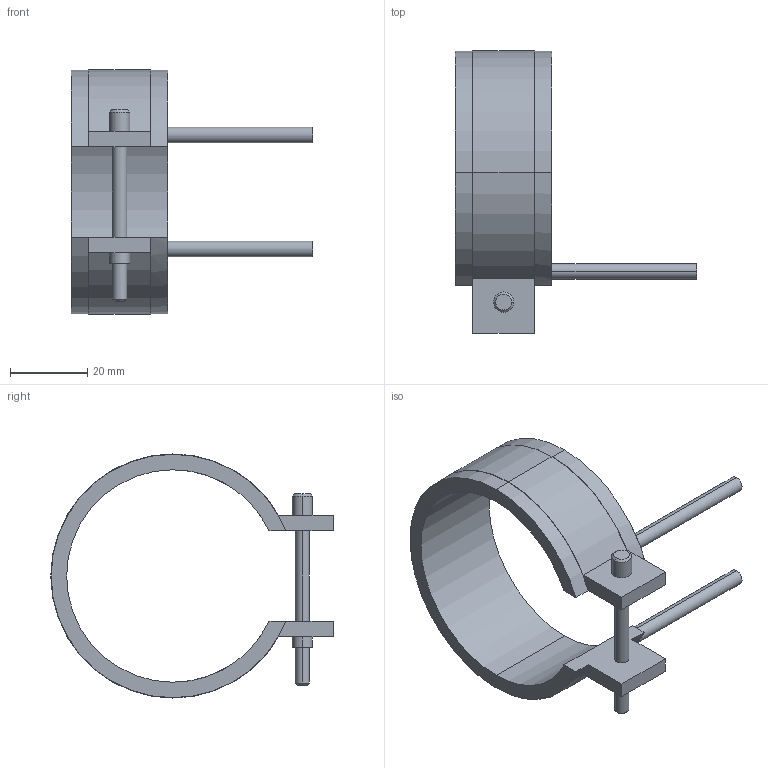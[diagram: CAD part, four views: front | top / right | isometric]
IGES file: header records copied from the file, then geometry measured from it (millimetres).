
Start section: START RECORD GO HERE.
Global section: file name: 14055025.igs; native system: DASSAULT SYSTEMES CATIA V5 R20 - www.3ds.com; preprocessor: CATIA Version 5 Release 20 ; author: Utente; organization: NB04-ASUS; date: 20210401.113707; units: millimetre
Bounding box: 62.5 x 73.1 x 63.2 mm (x, y, z)
Surface area: 12080.5 mm2 (no closed solid volume)
Topology: 0 solids, 0 shells, 45 faces, 232 edges, 232 vertices
Faces by surface type: revolution 28, plane 17
